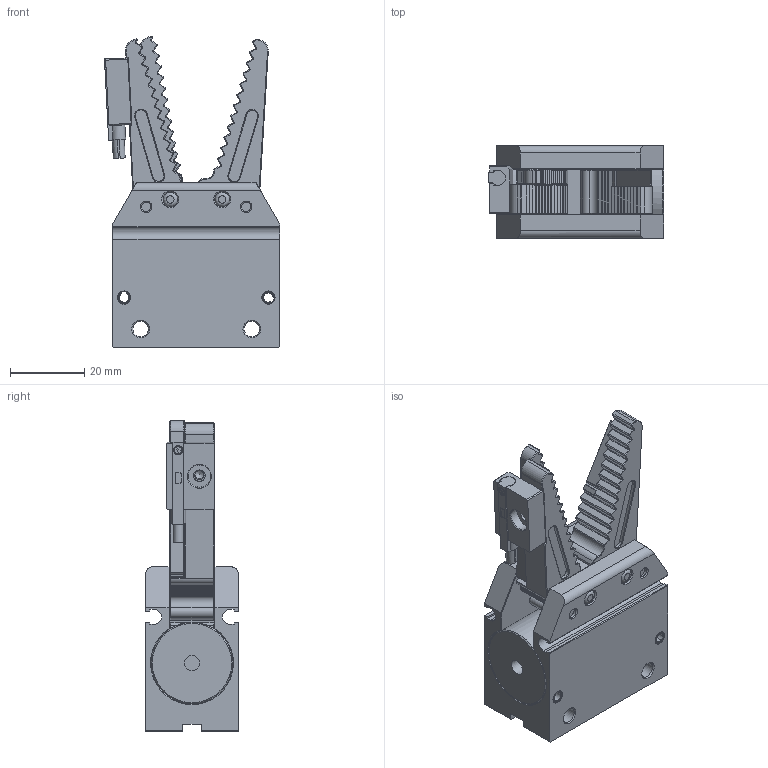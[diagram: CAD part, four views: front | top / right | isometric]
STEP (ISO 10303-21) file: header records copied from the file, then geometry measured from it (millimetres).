
FILE_DESCRIPTION(/* description */ (''),/* implementation_level */ '2;1');
FILE_NAME(/* name */ '_model1.stp',/* time_stamp */ '2023-03-08T18:08:47+08:00',/* author */ (''),/* organization */ (''),/* preprocessor_version */ 'ST-DEVELOPER v16',/* originating_system */ 'SIEMENS PLM Software NX 10.0',/* authorisation */ '');
FILE_SCHEMA (('AUTOMOTIVE_DESIGN { 1 0 10303 214 3 1 1 1 }'));
Length unit declared in the file: millimetre
Products named in the file (1): Admi115498B06jm9
Bounding box: 47.28 x 25 x 84.03 mm (x, y, z)
Volume: 50282.5 mm3; surface area: 18165.1 mm2
Topology: 3 solids, 8 shells, 1245 faces, 3153 edges, 1940 vertices
Faces by surface type: plane 499, cone 446, cylinder 294, revolution 6
Full cylindrical faces by diameter (mm): 2 x2, 2.5 x4, 3 x90, 3.2 x3, 3.4 x1, 3.5 x4, 4 x6, 4.2 x6, 5.6 x2, 6.1 x3
Entity records: 41965 total; most frequent: CARTESIAN_POINT 6649, DIRECTION 5694, ORIENTED_EDGE 5016, EDGE_CURVE 2508, AXIS2_PLACEMENT_3D 2179, VERTEX_POINT 1640, EDGE_LOOP 1630, LINE 1330
